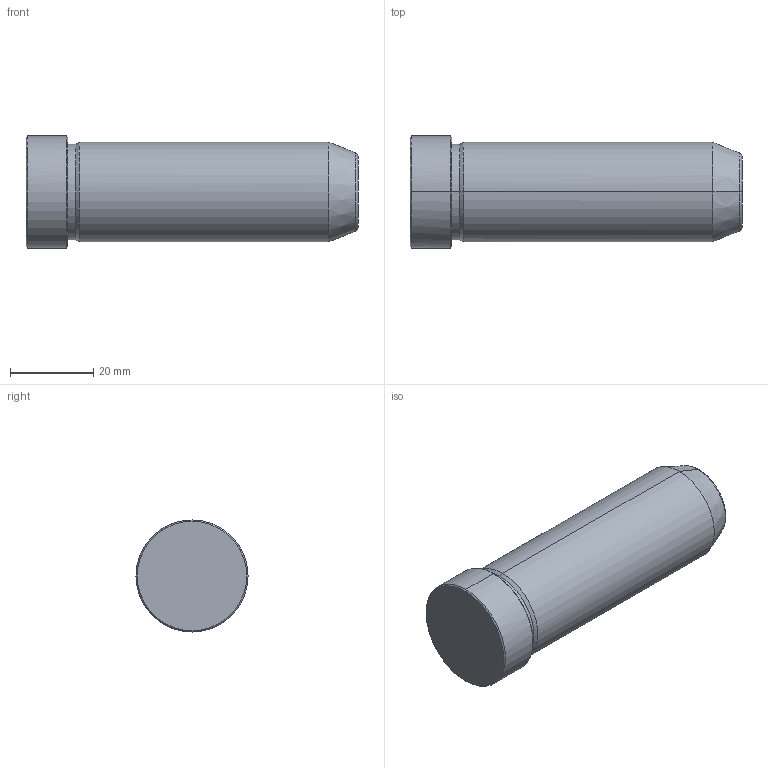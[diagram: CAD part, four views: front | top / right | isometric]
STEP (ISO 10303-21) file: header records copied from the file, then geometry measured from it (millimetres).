
FILE_DESCRIPTION(('CATIA V5 STEP Exchange'),'2;1');
FILE_NAME('C:\Users\Utente\Desktop\IO LAVORO\3D X SITO CF\X SITO\PLASTICA\549\549-24X80.stp','2021-12-17T14:06:54+00:00',('none'),('none'),'CATIA Version 5 Release 20 GA (IN-10)','CATIA V5 STEP AP203','none');
FILE_SCHEMA(('CONFIG_CONTROL_DESIGN'));
Length unit declared in the file: millimetre
Products named in the file (1): 549-24X80
Bounding box: 80 x 27 x 27 mm (x, y, z)
Volume: 36603 mm3; surface area: 7057 mm2
Topology: 1 solids, 1 shells, 19 faces, 56 edges, 40 vertices
Faces by surface type: cone 8, cylinder 6, plane 3, torus 2
Entity records: 736 total; most frequent: CARTESIAN_POINT 192, ORIENTED_EDGE 112, DIRECTION 86, EDGE_CURVE 56, AXIS2_PLACEMENT_3D 54, VERTEX_POINT 40, CIRCLE 34, EDGE_LOOP 20
